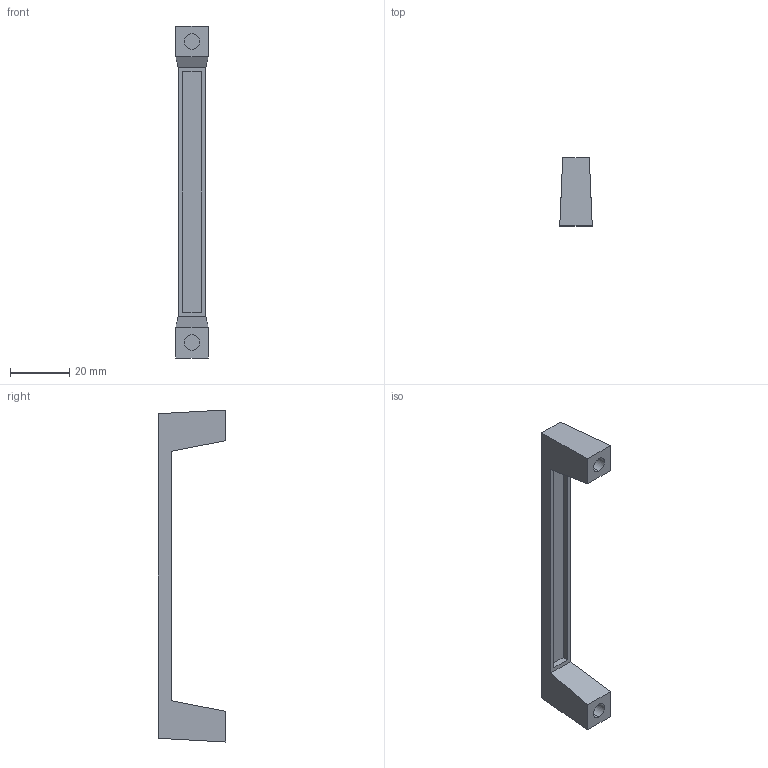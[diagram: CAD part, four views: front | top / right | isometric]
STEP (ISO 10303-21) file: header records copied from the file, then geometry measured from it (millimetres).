
FILE_DESCRIPTION (( 'STEP AP203' ), '1' );
FILE_NAME ('XG01-008.STEP', '2024-03-12T01:59:46', ( '' ), ( '' ), 'SwSTEP 2.0', 'SolidWorks 2020', '' );
FILE_SCHEMA (( 'CONFIG_CONTROL_DESIGN' ));
Length unit declared in the file: millimetre
Products named in the file (1): XG01-008
Bounding box: 11 x 23 x 112.5 mm (x, y, z)
Volume: 7606 mm3; surface area: 5385.3 mm2
Topology: 1 solids, 1 shells, 21 faces, 48 edges, 32 vertices
Faces by surface type: plane 17, cylinder 4
Entity records: 667 total; most frequent: CARTESIAN_POINT 102, DIRECTION 100, ORIENTED_EDGE 96, EDGE_CURVE 48, VECTOR 40, LINE 40, VERTEX_POINT 32, AXIS2_PLACEMENT_3D 30
